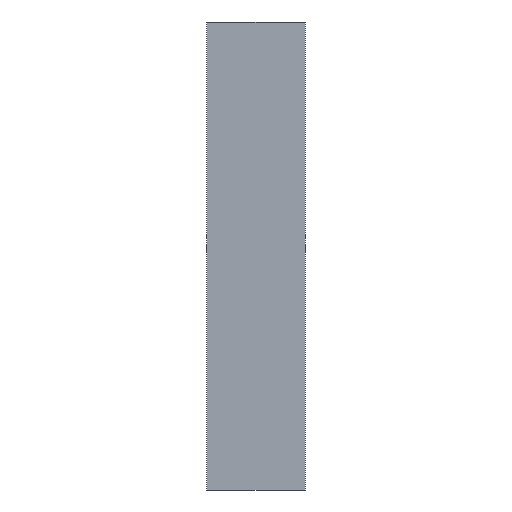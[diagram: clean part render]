
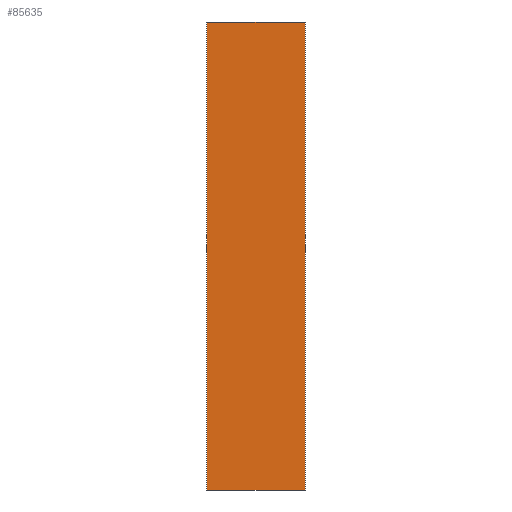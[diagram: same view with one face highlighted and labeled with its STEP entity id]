
A CAD part, front view. The second image highlights one B-rep face of the part: STEP entity #85635.
In plain terms, the highlighted planar face has unit normal (0, -1, 0).
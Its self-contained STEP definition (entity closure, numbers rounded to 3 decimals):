
#1=DIRECTION('',(1.,0.,0.));
#2=VECTOR('',#1,80.);
#3=CARTESIAN_POINT('',(-40.,101.9,69.93));
#4=LINE('',#3,#2);
#5=DIRECTION('',(0.,0.,-1.));
#6=VECTOR('',#5,380.);
#7=CARTESIAN_POINT('',(40.,101.9,69.93));
#8=LINE('',#7,#6);
#9=DIRECTION('',(-1.,0.,0.));
#10=VECTOR('',#9,80.);
#11=CARTESIAN_POINT('',(40.,101.9,-310.07));
#12=LINE('',#11,#10);
#13=DIRECTION('',(0.,0.,1.));
#14=VECTOR('',#13,380.);
#15=CARTESIAN_POINT('',(-40.,101.9,-310.07));
#16=LINE('',#15,#14);
#85498=CARTESIAN_POINT('',(-40.,101.9,69.93));
#85499=CARTESIAN_POINT('',(40.,101.9,69.93));
#85500=VERTEX_POINT('',#85498);
#85501=VERTEX_POINT('',#85499);
#85502=CARTESIAN_POINT('',(40.,101.9,-310.07));
#85503=VERTEX_POINT('',#85502);
#85504=CARTESIAN_POINT('',(-40.,101.9,-310.07));
#85505=VERTEX_POINT('',#85504);
#85620=CARTESIAN_POINT('',(0.,101.9,-0.07));
#85621=DIRECTION('',(0.,-1.,0.));
#85622=DIRECTION('',(0.,0.,-1.));
#85623=AXIS2_PLACEMENT_3D('',#85620,#85621,#85622);
#85624=PLANE('',#85623);
#85626=ORIENTED_EDGE('',*,*,#85625,.T.);
#85628=ORIENTED_EDGE('',*,*,#85627,.T.);
#85630=ORIENTED_EDGE('',*,*,#85629,.T.);
#85632=ORIENTED_EDGE('',*,*,#85631,.T.);
#85633=EDGE_LOOP('',(#85626,#85628,#85630,#85632));
#85634=FACE_OUTER_BOUND('',#85633,.F.);
#85635=ADVANCED_FACE('',(#85634),#85624,.T.);
#85625=EDGE_CURVE('',#85500,#85501,#4,.T.);
#85627=EDGE_CURVE('',#85501,#85503,#8,.T.);
#85629=EDGE_CURVE('',#85503,#85505,#12,.T.);
#85631=EDGE_CURVE('',#85505,#85500,#16,.T.);
